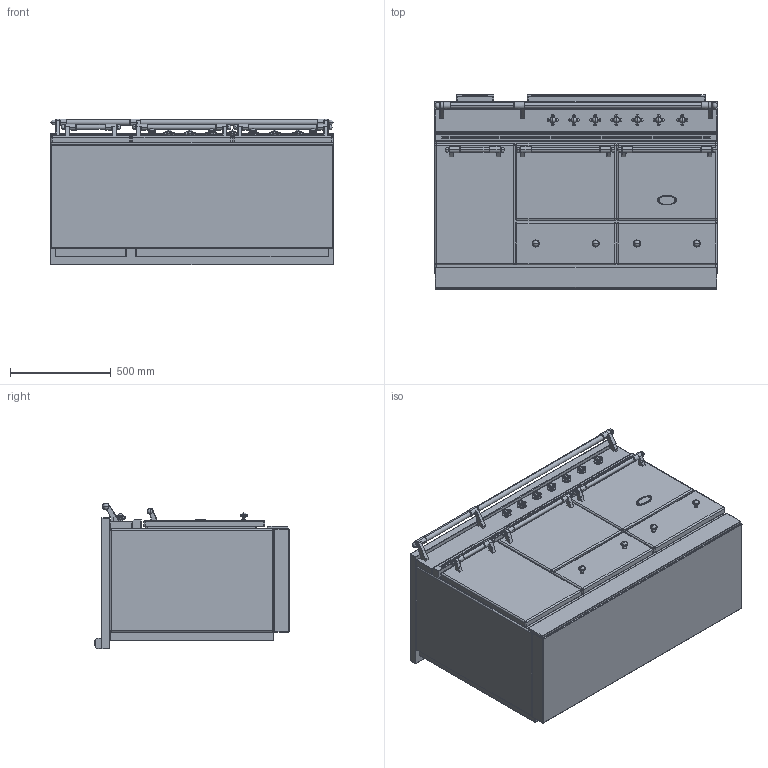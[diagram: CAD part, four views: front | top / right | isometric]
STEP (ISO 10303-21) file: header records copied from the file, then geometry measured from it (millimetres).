
FILE_DESCRIPTION((''),'2;1');
FILE_NAME('VUES_DXF_ASM','2021-12-01T13:50:52',('r.avril'),(''),'CREO PARAMETRIC BY PTC INC, 2017260','CREO PARAMETRIC BY PTC INC, 2017260','');
FILE_SCHEMA(('AP203_CONFIGURATION_CONTROLLED_3D_DESIGN_OF_MECHANICAL_PARTS_AND_ASSEMBLIES_MIM_LF { 1 0 10303 403 2 1 2 }'));
Products named in the file (21): BASE_EXPORT_CLUNY_1400G; 65650003; 65650004; 6531940; 6531941; 6538399; 1931942; 65080022_AF0; 6531942_ASM; 6531943; 65049009; 65650001; 65650007; BASE_EXPORT_CLUNY_1400G_ASM; TABLE_1405G_INDUCTION; 65052013; CHEMINEE_2020_LG182_EXPORT_STEP; CHEMINEE_2020_LG882_EXPORT_STEP; TABLE_1405G_INDUCTION_ASM; LVI1452G_ASM; VUES_DXF_ASM
Assembly tree (33 placements, depth 5):
  VUES_DXF_ASM
    LVI1452G_ASM
      BASE_EXPORT_CLUNY_1400G_ASM
        BASE_EXPORT_CLUNY_1400G
        65650003
        65650004
        6531940  x3
        6531941  x3
        6531942_ASM  x7
          6538399
          1931942
          65080022_AF0
        6531943  x4
        65049009
        65650001
        65650007
      TABLE_1405G_INDUCTION_ASM
        TABLE_1405G_INDUCTION
        65052013
        CHEMINEE_2020_LG182_EXPORT_STEP
        CHEMINEE_2020_LG882_EXPORT_STEP
Bounding box: 1405 x 963 x 724 mm (x, y, z)
Volume: 516632022.5 mm3; surface area: 13072448.8 mm2
Topology: 49 solids, 62 shells, 5578 faces, 15141 edges, 9704 vertices
Faces by surface type: plane 2921, cylinder 1809, torus 246, sphere 198, extrusion 198, cone 97, bspline 93, revolution 16
Entity records: 132888 total; most frequent: CARTESIAN_POINT 28611, ORIENTED_EDGE 19014, DIRECTION 18156, EDGE_CURVE 9519, VECTOR 6489, LINE 6459, VERTEX_POINT 6180, AXIS2_PLACEMENT_3D 5800
